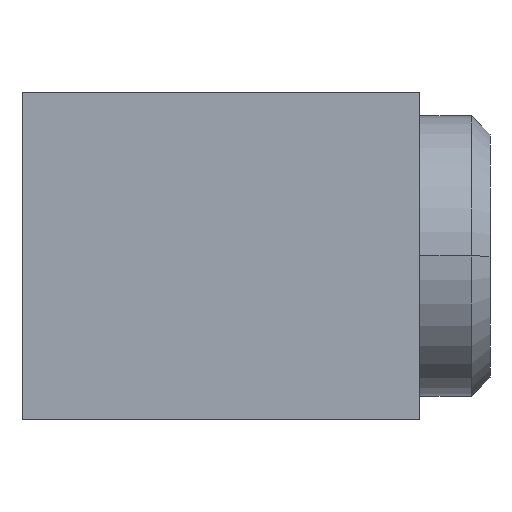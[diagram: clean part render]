
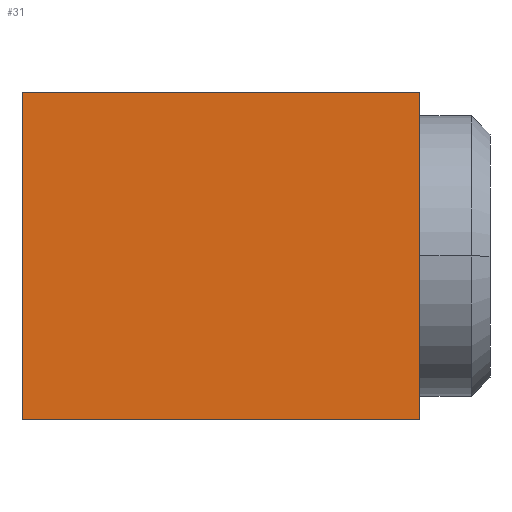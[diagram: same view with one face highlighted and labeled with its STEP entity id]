
A CAD part, left-side view. The second image highlights one B-rep face of the part: STEP entity #31.
In plain terms, the highlighted planar face has unit normal (-1, 0, 0).
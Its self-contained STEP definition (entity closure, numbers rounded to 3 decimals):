
#31 = ADVANCED_FACE ( 'NONE', ( #292 ), #1349, .F. ) ;
#62 = VECTOR ( 'NONE', #944, 1000. ) ;
#68 = VECTOR ( 'NONE', #936, 1000. ) ;
#75 = VECTOR ( 'NONE', #924, 1000. ) ;
#76 = LINE ( 'NONE', #938, #68 ) ;
#78 = LINE ( 'NONE', #931, #80 ) ;
#79 = LINE ( 'NONE', #925, #75 ) ;
#80 = VECTOR ( 'NONE', #933, 1000. ) ;
#255 = LINE ( 'NONE', #946, #62 ) ;
#292 = FACE_OUTER_BOUND ( 'NONE', #474, .T. ) ;
#333 = VERTEX_POINT ( 'NONE', #1463 ) ;
#347 = ORIENTED_EDGE ( 'NONE', *, *, #822, .T. ) ;
#385 = VERTEX_POINT ( 'NONE', #1461 ) ;
#407 = ORIENTED_EDGE ( 'NONE', *, *, #812, .F. ) ;
#427 = VERTEX_POINT ( 'NONE', #1464 ) ;
#474 = EDGE_LOOP ( 'NONE', ( #475, #548, #407, #347 ) ) ;
#475 = ORIENTED_EDGE ( 'NONE', *, *, #816, .T. ) ;
#548 = ORIENTED_EDGE ( 'NONE', *, *, #821, .F. ) ;
#549 = VERTEX_POINT ( 'NONE', #1308 ) ;
#734 = AXIS2_PLACEMENT_3D ( 'NONE', #1355, #1335, #1336 ) ;
#812 = EDGE_CURVE ( 'NONE', #549, #385, #255, .T. ) ;
#816 = EDGE_CURVE ( 'NONE', #427, #333, #76, .T. ) ;
#821 = EDGE_CURVE ( 'NONE', #385, #333, #78, .T. ) ;
#822 = EDGE_CURVE ( 'NONE', #549, #427, #79, .T. ) ;
#924 = DIRECTION ( 'NONE',  ( 0., 0., -1. ) ) ;
#925 = CARTESIAN_POINT ( 'NONE',  ( 0., 17., 14. ) ) ;
#931 = CARTESIAN_POINT ( 'NONE',  ( 0., 0., 14. ) ) ;
#933 = DIRECTION ( 'NONE',  ( 0., 0., -1. ) ) ;
#936 = DIRECTION ( 'NONE',  ( 0., -1., 0. ) ) ;
#938 = CARTESIAN_POINT ( 'NONE',  ( 0., 0., 0. ) ) ;
#944 = DIRECTION ( 'NONE',  ( 0., -1., 0. ) ) ;
#946 = CARTESIAN_POINT ( 'NONE',  ( 0., 0., 14. ) ) ;
#1308 = CARTESIAN_POINT ( 'NONE',  ( 0., 17., 14. ) ) ;
#1335 = DIRECTION ( 'NONE',  ( 1., 0., 0. ) ) ;
#1336 = DIRECTION ( 'NONE',  ( 0., 0., -1. ) ) ;
#1349 = PLANE ( 'NONE',  #734 ) ;
#1355 = CARTESIAN_POINT ( 'NONE',  ( 0., 0., 14. ) ) ;
#1461 = CARTESIAN_POINT ( 'NONE',  ( 0., 0., 14. ) ) ;
#1463 = CARTESIAN_POINT ( 'NONE',  ( 0., 0., 0. ) ) ;
#1464 = CARTESIAN_POINT ( 'NONE',  ( 0., 17., 0. ) ) ;
